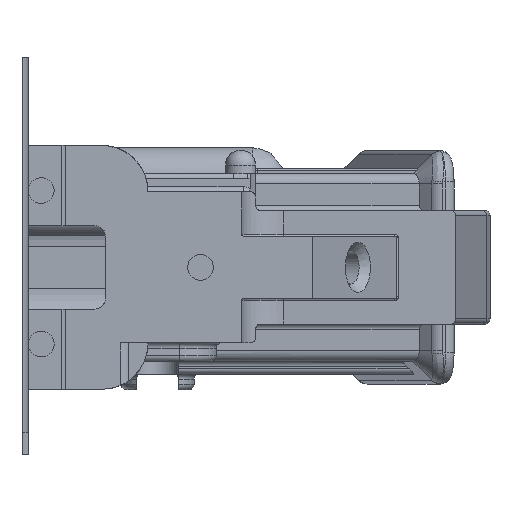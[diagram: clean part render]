
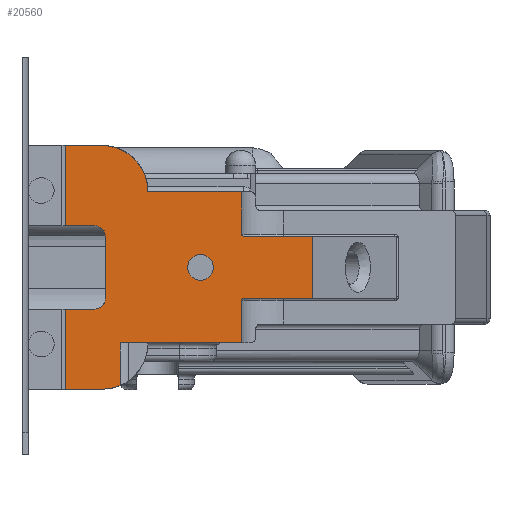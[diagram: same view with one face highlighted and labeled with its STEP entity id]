
A CAD part, left-side view. The second image highlights one B-rep face of the part: STEP entity #20560.
In plain terms, the highlighted planar face has unit normal (-1, 0, 0).
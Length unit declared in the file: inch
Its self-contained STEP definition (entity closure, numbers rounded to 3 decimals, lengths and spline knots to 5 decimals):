
#348=FACE_BOUND('',#2795,.T.);
#1048=CIRCLE('',#21827,0.0625);
#1049=CIRCLE('',#21828,0.0625);
#1050=CIRCLE('',#21829,0.27784);
#1051=CIRCLE('',#21830,0.01);
#1052=CIRCLE('',#21831,0.01);
#1053=CIRCLE('',#21832,0.27784);
#1054=CIRCLE('',#21833,0.0775);
#1609=FACE_OUTER_BOUND('',#2794,.T.);
#2794=EDGE_LOOP('',(#14388,#14389,#14390,#14391,#14392,#14393,#14394,#14395,
#14396,#14397,#14398,#14399,#14400,#14401,#14402,#14403,#14404,#14405,#14406,
#14407,#14408));
#2795=EDGE_LOOP('',(#14409));
#4233=LINE('',#29234,#6404);
#4322=LINE('',#29579,#6493);
#4456=LINE('',#30139,#6627);
#4458=LINE('',#30145,#6629);
#4459=LINE('',#30149,#6630);
#4465=LINE('',#30162,#6636);
#4471=LINE('',#30180,#6642);
#4472=LINE('',#30185,#6643);
#4473=LINE('',#30187,#6644);
#4474=LINE('',#30189,#6645);
#4475=LINE('',#30193,#6646);
#4476=LINE('',#30195,#6647);
#4477=LINE('',#30197,#6648);
#4478=LINE('',#30201,#6649);
#4479=LINE('',#30203,#6650);
#6404=VECTOR('',#23373,0.47716);
#6493=VECTOR('',#23466,0.4375);
#6627=VECTOR('',#23808,0.3937);
#6629=VECTOR('',#23814,0.3937);
#6630=VECTOR('',#23819,0.47716);
#6636=VECTOR('',#23829,0.4375);
#6642=VECTOR('',#23845,0.375);
#6643=VECTOR('',#23850,0.3937);
#6644=VECTOR('',#23851,0.3937);
#6645=VECTOR('',#23852,0.25563);
#6646=VECTOR('',#23855,0.41801);
#6647=VECTOR('',#23856,0.375);
#6648=VECTOR('',#23857,0.41801);
#6649=VECTOR('',#23860,0.25563);
#6650=VECTOR('',#23861,0.561);
#8631=VERTEX_POINT('',#29231);
#8632=VERTEX_POINT('',#29233);
#8753=VERTEX_POINT('',#29576);
#8754=VERTEX_POINT('',#29578);
#8903=VERTEX_POINT('',#30138);
#8905=VERTEX_POINT('',#30144);
#8906=VERTEX_POINT('',#30148);
#8911=VERTEX_POINT('',#30161);
#8917=VERTEX_POINT('',#30177);
#8918=VERTEX_POINT('',#30179);
#8919=VERTEX_POINT('',#30182);
#8920=VERTEX_POINT('',#30184);
#8921=VERTEX_POINT('',#30186);
#8922=VERTEX_POINT('',#30188);
#8923=VERTEX_POINT('',#30190);
#8924=VERTEX_POINT('',#30192);
#8925=VERTEX_POINT('',#30194);
#8926=VERTEX_POINT('',#30196);
#8927=VERTEX_POINT('',#30198);
#8928=VERTEX_POINT('',#30200);
#8929=VERTEX_POINT('',#30202);
#8930=VERTEX_POINT('',#30205);
#10729=EDGE_CURVE('',#8631,#8632,#4233,.T.);
#10852=EDGE_CURVE('',#8753,#8754,#4322,.T.);
#11056=EDGE_CURVE('',#8903,#8632,#4456,.T.);
#11059=EDGE_CURVE('',#8905,#8754,#4458,.T.);
#11061=EDGE_CURVE('',#8905,#8906,#4459,.T.);
#11068=EDGE_CURVE('',#8903,#8911,#4465,.T.);
#11076=EDGE_CURVE('',#8917,#8753,#1048,.T.);
#11077=EDGE_CURVE('',#8918,#8917,#4471,.T.);
#11078=EDGE_CURVE('',#8911,#8918,#1049,.T.);
#11079=EDGE_CURVE('',#8919,#8631,#1050,.T.);
#11080=EDGE_CURVE('',#8919,#8920,#4472,.T.);
#11081=EDGE_CURVE('',#8920,#8921,#4473,.T.);
#11082=EDGE_CURVE('',#8922,#8921,#4474,.T.);
#11083=EDGE_CURVE('',#8923,#8922,#1051,.T.);
#11084=EDGE_CURVE('',#8924,#8923,#4475,.T.);
#11085=EDGE_CURVE('',#8925,#8924,#4476,.T.);
#11086=EDGE_CURVE('',#8926,#8925,#4477,.T.);
#11087=EDGE_CURVE('',#8927,#8926,#1052,.T.);
#11088=EDGE_CURVE('',#8928,#8927,#4478,.T.);
#11089=EDGE_CURVE('',#8929,#8928,#4479,.T.);
#11090=EDGE_CURVE('',#8906,#8929,#1053,.T.);
#11091=EDGE_CURVE('',#8930,#8930,#1054,.T.);
#14388=ORIENTED_EDGE('',*,*,#11059,.T.);
#14389=ORIENTED_EDGE('',*,*,#10852,.F.);
#14390=ORIENTED_EDGE('',*,*,#11076,.F.);
#14391=ORIENTED_EDGE('',*,*,#11077,.F.);
#14392=ORIENTED_EDGE('',*,*,#11078,.F.);
#14393=ORIENTED_EDGE('',*,*,#11068,.F.);
#14394=ORIENTED_EDGE('',*,*,#11056,.T.);
#14395=ORIENTED_EDGE('',*,*,#10729,.F.);
#14396=ORIENTED_EDGE('',*,*,#11079,.F.);
#14397=ORIENTED_EDGE('',*,*,#11080,.T.);
#14398=ORIENTED_EDGE('',*,*,#11081,.T.);
#14399=ORIENTED_EDGE('',*,*,#11082,.F.);
#14400=ORIENTED_EDGE('',*,*,#11083,.F.);
#14401=ORIENTED_EDGE('',*,*,#11084,.F.);
#14402=ORIENTED_EDGE('',*,*,#11085,.F.);
#14403=ORIENTED_EDGE('',*,*,#11086,.F.);
#14404=ORIENTED_EDGE('',*,*,#11087,.F.);
#14405=ORIENTED_EDGE('',*,*,#11088,.F.);
#14406=ORIENTED_EDGE('',*,*,#11089,.F.);
#14407=ORIENTED_EDGE('',*,*,#11090,.F.);
#14408=ORIENTED_EDGE('',*,*,#11061,.F.);
#14409=ORIENTED_EDGE('',*,*,#11091,.F.);
#19853=PLANE('',#21826);
#20560=ADVANCED_FACE('',(#1609,#348),#19853,.F.);
#21826=AXIS2_PLACEMENT_3D('',#30176,#23841,#23842);
#21827=AXIS2_PLACEMENT_3D('',#30178,#23843,#23844);
#21828=AXIS2_PLACEMENT_3D('',#30181,#23846,#23847);
#21829=AXIS2_PLACEMENT_3D('',#30183,#23848,#23849);
#21830=AXIS2_PLACEMENT_3D('',#30191,#23853,#23854);
#21831=AXIS2_PLACEMENT_3D('',#30199,#23858,#23859);
#21832=AXIS2_PLACEMENT_3D('',#30204,#23862,#23863);
#21833=AXIS2_PLACEMENT_3D('',#30206,#23864,#23865);
#23373=DIRECTION('',(0.,1.,0.));
#23466=DIRECTION('',(0.,1.,0.));
#23808=DIRECTION('',(0.,0.,-1.));
#23814=DIRECTION('',(0.,0.,-1.));
#23819=DIRECTION('',(0.,-1.,0.));
#23829=DIRECTION('',(0.,-1.,0.));
#23841=DIRECTION('center_axis',(1.,0.,0.));
#23842=DIRECTION('ref_axis',(0.,0.,-1.));
#23843=DIRECTION('center_axis',(-1.,0.,0.));
#23844=DIRECTION('ref_axis',(0.,-1.,0.));
#23845=DIRECTION('',(0.,0.,1.));
#23846=DIRECTION('center_axis',(-1.,0.,0.));
#23847=DIRECTION('ref_axis',(0.,1.,0.));
#23848=DIRECTION('center_axis',(1.,0.,0.));
#23849=DIRECTION('ref_axis',(0.,0.,1.));
#23850=DIRECTION('',(0.,0.,1.));
#23851=DIRECTION('',(0.,-1.,0.));
#23852=DIRECTION('',(0.,0.,-1.));
#23853=DIRECTION('center_axis',(-1.,0.,0.));
#23854=DIRECTION('ref_axis',(0.,1.,0.));
#23855=DIRECTION('',(0.,1.,0.));
#23856=DIRECTION('',(0.,0.,-1.));
#23857=DIRECTION('',(0.,-1.,0.));
#23858=DIRECTION('center_axis',(-1.,0.,0.));
#23859=DIRECTION('ref_axis',(0.,-1.,0.));
#23860=DIRECTION('',(0.,0.,-1.));
#23861=DIRECTION('',(0.,-1.,0.));
#23862=DIRECTION('center_axis',(1.,0.,0.));
#23863=DIRECTION('ref_axis',(0.,0.,1.));
#23864=DIRECTION('center_axis',(-1.,0.,0.));
#23865=DIRECTION('ref_axis',(0.,1.,0.));
#29231=CARTESIAN_POINT('',(-6.25,-0.22666,-0.73097));
#29233=CARTESIAN_POINT('',(-6.25,-0.01069,-0.73097));
#29234=CARTESIAN_POINT('',(-6.25,-0.22666,-0.73097));
#29576=CARTESIAN_POINT('',(-6.25,-0.187,0.25));
#29578=CARTESIAN_POINT('',(-6.25,-0.01069,0.25));
#29579=CARTESIAN_POINT('',(-6.25,-0.187,0.25));
#30138=CARTESIAN_POINT('',(-6.25,-0.01069,-0.25));
#30139=CARTESIAN_POINT('',(-6.25,-0.01069,0.73097));
#30144=CARTESIAN_POINT('',(-6.25,-0.01069,0.73097));
#30145=CARTESIAN_POINT('',(-6.25,-0.01069,0.73097));
#30148=CARTESIAN_POINT('',(-6.25,-0.22666,0.73097));
#30149=CARTESIAN_POINT('',(-6.25,0.2505,0.73097));
#30161=CARTESIAN_POINT('',(-6.25,-0.187,-0.25));
#30162=CARTESIAN_POINT('',(-6.25,0.2505,-0.25));
#30176=CARTESIAN_POINT('Origin',(-6.25,-0.5805,0.01254));
#30177=CARTESIAN_POINT('',(-6.25,-0.2495,0.1875));
#30178=CARTESIAN_POINT('Origin',(-6.25,-0.187,0.1875));
#30179=CARTESIAN_POINT('',(-6.25,-0.2495,-0.1875));
#30180=CARTESIAN_POINT('',(-6.25,-0.2495,-0.1875));
#30181=CARTESIAN_POINT('Origin',(-6.25,-0.187,-0.1875));
#30182=CARTESIAN_POINT('',(-6.25,-0.3375,-0.7079));
#30183=CARTESIAN_POINT('Origin',(-6.25,-0.22666,-0.45313));
#30184=CARTESIAN_POINT('',(-6.25,-0.3375,-0.45313));
#30185=CARTESIAN_POINT('',(-6.25,-0.3375,-0.34037));
#30186=CARTESIAN_POINT('',(-6.25,-1.0655,-0.45313));
#30187=CARTESIAN_POINT('',(-6.25,-0.509,-0.45313));
#30188=CARTESIAN_POINT('',(-6.25,-1.0655,-0.1975));
#30189=CARTESIAN_POINT('',(-6.25,-1.0655,-0.1975));
#30190=CARTESIAN_POINT('',(-6.25,-1.0755,-0.1875));
#30191=CARTESIAN_POINT('Origin',(-6.25,-1.0755,-0.1975));
#30192=CARTESIAN_POINT('',(-6.25,-1.49351,-0.1875));
#30193=CARTESIAN_POINT('',(-6.25,-1.49351,-0.1875));
#30194=CARTESIAN_POINT('',(-6.25,-1.49351,0.1875));
#30195=CARTESIAN_POINT('',(-6.25,-1.49351,0.1875));
#30196=CARTESIAN_POINT('',(-6.25,-1.0755,0.1875));
#30197=CARTESIAN_POINT('',(-6.25,-1.0755,0.1875));
#30198=CARTESIAN_POINT('',(-6.25,-1.0655,0.1975));
#30199=CARTESIAN_POINT('Origin',(-6.25,-1.0755,0.1975));
#30200=CARTESIAN_POINT('',(-6.25,-1.0655,0.45313));
#30201=CARTESIAN_POINT('',(-6.25,-1.0655,0.45313));
#30202=CARTESIAN_POINT('',(-6.25,-0.5045,0.45313));
#30203=CARTESIAN_POINT('',(-6.25,-0.5045,0.45313));
#30204=CARTESIAN_POINT('Origin',(-6.25,-0.22666,0.45313));
#30205=CARTESIAN_POINT('',(-6.25,-0.897,0.));
#30206=CARTESIAN_POINT('Origin',(-6.25,-0.8195,0.));
